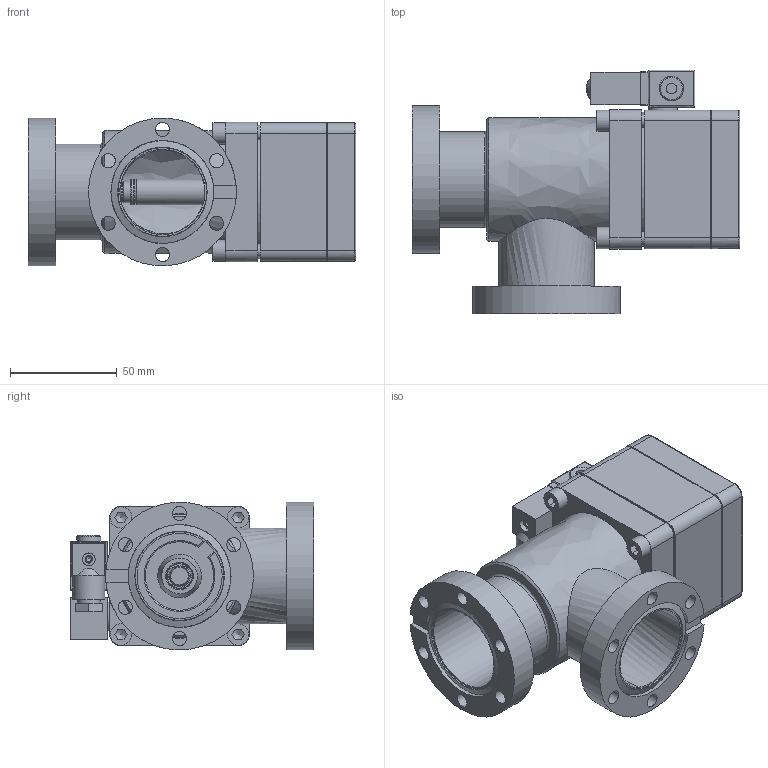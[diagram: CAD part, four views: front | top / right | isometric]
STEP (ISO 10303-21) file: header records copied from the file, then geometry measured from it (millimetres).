
FILE_DESCRIPTION((''),'2;1');
FILE_NAME('C:\temp\ideas\329916.stp','2006-11-10T12:08:16',('User'),( 'SDRC'),'I-DEAS Master Series 9','UNIX','Yes');
FILE_SCHEMA(('CONFIG_CONTROL_DESIGN'));
Length unit declared in the file: millimetre
Assembly tree (26 placements, depth 0):
Bounding box: 153.85 x 114.4 x 69.35 mm (x, y, z)
Volume: 164328.7 mm3; surface area: 153875.4 mm2
Topology: 28 solids, 32 shells, 753 faces, 1806 edges, 1170 vertices
Faces by surface type: bspline 753
Entity records: 23939 total; most frequent: CARTESIAN_POINT 11790, ORIENTED_EDGE 3152, EDGE_CURVE 1576, VERTEX_POINT 1023, EDGE_LOOP 764, FACE_OUTER_BOUND 643, ADVANCED_FACE 643, B_SPLINE_CURVE_WITH_KNOTS 566
